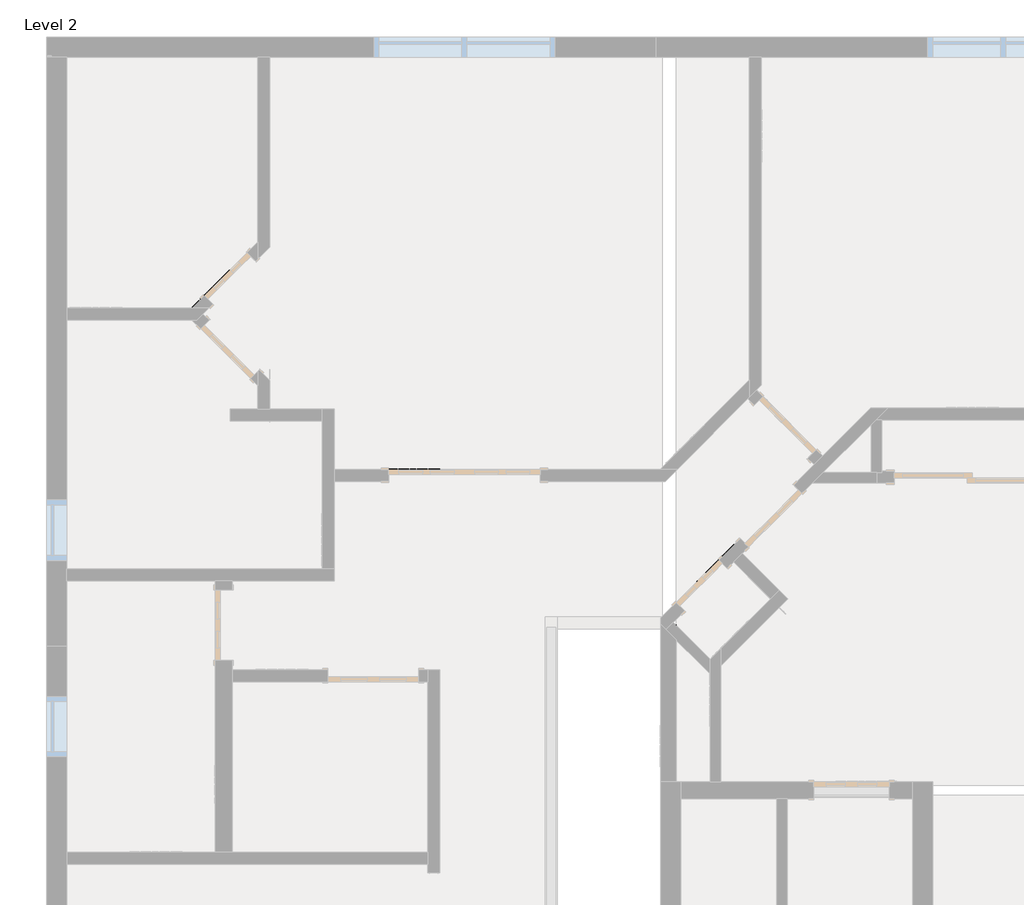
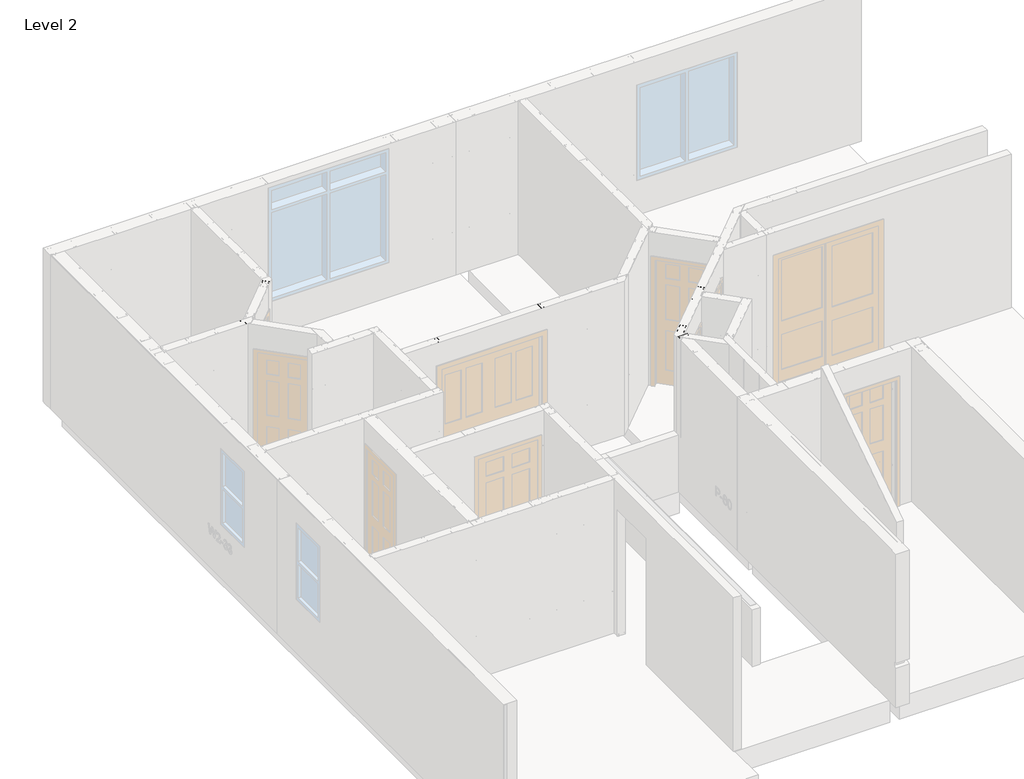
# One storey, part 30 of 46: 10 columns, 3 beams, 3 fasteners.
"""IFC4 building model written with IfcOpenShell, lengths in millimetres."""

from ifc_helpers import new_model, si_unit, point, frame, origin, place, context, project, spatial, circle_curve, ellipse_curve, trimmed, transform, mapped, element, save
from ifc_brep_helpers import plane_surface, extruded_surface, advanced_brep
from components import beam_350nf150_33_fdf4906e, beam_350nf150_33_23912f3a, beam_350nf150_33_e3974812, column_350nf150_33_a93e9d8a, panellabel_e07ebce4, panellabel_08628373, panellabel_aeb8809d

model = new_model("IFC4")

# Units and contexts
model_context = context("Model", 3, world=origin())
ifc_project = project(units=[si_unit("LENGTHUNIT", "METRE", prefix="MILLI")], contexts=[model_context])

# Site, building, storey
site = spatial("IfcSite", under=ifc_project)
building = spatial("IfcBuilding", under=site)
storey = spatial("IfcBuildingStorey", under=building, Name="Level 2", Elevation=3060.7)

# Beams
placement = place(None, origin())
beam_350nf150_33_shape = beam_350nf150_33_fdf4906e(model_context)
element("IfcBeam", 1, ObjectType="BIMSF-SSMA-S : 350NF150-33", at=placement, inside=storey, context=model_context, shape_type="MappedRepresentation", body=[
    mapped(beam_350nf150_33_shape, transform((-8973.177191, 8254.4366717, 3076.575), x_axis=(0.7071067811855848, 0.7071067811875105, 0.0), y_axis=(0.0, 0.0, -1.0000000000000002), z_axis=(-0.7071067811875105, 0.7071067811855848, 0.0))),
])
beam_350nf150_33_2_shape = beam_350nf150_33_23912f3a(model_context)
element("IfcBeam", 2, ObjectType="BIMSF-SSMA-S : 350NF150-33", at=placement, inside=storey, context=model_context, shape_type="MappedRepresentation", body=[
    mapped(beam_350nf150_33_2_shape, transform((-8382.9407258, 8844.6731369, 3076.575), x_axis=(0.7071067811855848, 0.7071067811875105, 0.0), y_axis=(0.0, 0.0, -1.0000000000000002), z_axis=(-0.7071067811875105, 0.7071067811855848, 0.0))),
])
beam_350nf150_33_3_shape = beam_350nf150_33_e3974812(model_context)
element("IfcBeam", 3, ObjectType="BIMSF-SSMA-S : 350NF150-33", at=placement, inside=storey, context=model_context, shape_type="MappedRepresentation", body=[
    mapped(beam_350nf150_33_3_shape, transform((-8232.4643379, 8079.1634004, 3076.575), x_axis=(0.7071067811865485, 0.7071067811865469, 0.0), y_axis=(0.0, 0.0, -1.0000000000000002), z_axis=(-0.7071067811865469, 0.7071067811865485, 0.0))),
])

# Columns
element("IfcColumn", 4, ObjectType="BIMSF-SSMA-S-Column : 350NF150-33", at=placement, inside=storey, context=model_context, shape_type="AdvancedBrep", body=[
    advanced_brep(
    [(-10266.4913349, 8097.4454064, 3061.5929687), (-10177.5913349, 8097.4454064, 3061.5929687), (-10177.5913349, 8059.3454064, 3061.5929687), (-10183.2488507, 8059.3454064, 3061.5929687), (-10183.2488507, 8060.2277222, 3061.5929687), (-10178.4736507, 8060.2277222, 3061.5929687), (-10178.4736507, 8096.5630906, 3061.5929687), (-10265.6090191, 8096.5630906, 3061.5929687), (-10265.6090191, 8060.2277222, 3061.5929687), (-10260.8338191, 8060.2277222, 3061.5929687), (-10260.8338191, 8059.3454064, 3061.5929687), (-10266.4913349, 8059.3454064, 3061.5929687), (-10266.4913349, 8097.4454064, 3974.2070312), (-10177.5913349, 8097.4454064, 3974.2070312), (-10209.3413349, 8097.4454064, 3671.1929688), (-10234.7413349, 8097.4454064, 3671.1929688), (-10177.5913349, 8059.3454064, 3974.2070312), (-10183.2488507, 8059.3454064, 3974.2070312), (-10183.2488507, 8060.2277222, 3974.2070312), (-10178.4736507, 8060.2277222, 3974.2070312), (-10178.4736507, 8096.5630906, 3974.2070312), (-10265.6090191, 8096.5630906, 3974.2070312), (-10234.7413349, 8096.5630906, 3671.1929688), (-10209.3413349, 8096.5630906, 3671.1929688), (-10265.6090191, 8060.2277222, 3974.2070312), (-10260.8338191, 8060.2277222, 3974.2070312), (-10260.8338191, 8059.3454064, 3974.2070312), (-10266.4913349, 8059.3454064, 3974.2070312)],
    [
        (0, 1),
        (1, 2),
        (2, 3),
        (3, 4),
        (4, 5),
        (5, 6),
        (6, 7),
        (7, 8),
        (8, 9),
        (9, 10),
        (10, 11),
        (11, 0),
        (0, 12),
        (12, 13),
        (13, 1),
        (14, 15, circle_curve(frame((-10222.0413349, 8097.4454064, 3671.1929688), z_axis=(0.0, -1.0, 0.0), x_axis=(1.0, 0.0, 0.0)), 12.7)),
        (15, 14, circle_curve(frame((-10222.0413349, 8097.4454064, 3671.1929688), z_axis=(0.0, -1.0, 0.0), x_axis=(1.0, 0.0, 0.0)), 12.7)),
        (13, 16),
        (16, 2),
        (16, 17),
        (17, 3),
        (17, 18),
        (18, 4),
        (18, 19),
        (19, 5),
        (19, 20),
        (20, 6),
        (20, 21),
        (21, 7),
        (22, 23, circle_curve(frame((-10222.0413349, 8096.5630906, 3671.1929688), z_axis=(0.0, 1.0, 0.0), x_axis=(1.0, 0.0, 0.0)), 12.7)),
        (23, 22, circle_curve(frame((-10222.0413349, 8096.5630906, 3671.1929688), z_axis=(0.0, 1.0, 0.0), x_axis=(1.0, 0.0, 0.0)), 12.7)),
        (21, 24),
        (24, 8),
        (24, 25),
        (25, 9),
        (25, 26),
        (26, 10),
        (26, 27),
        (27, 11),
        (27, 12),
        (22, 15),
        (14, 23),
    ],
    [
        plane_surface(frame((-10266.4913349, 8097.4454064, 3061.5929687), z_axis=(0.0, 0.0, -1.0), x_axis=(0.0, 1.0, 0.0))),
        plane_surface(frame((-10177.5913349, 8097.4454064, 3974.2070312), z_axis=(0.0, 1.0, 0.0), x_axis=(0.0, 0.0, -1.0))),
        plane_surface(frame((-10177.5913349, 8059.3454064, 3974.2070312), z_axis=(1.0, 0.0, 0.0), x_axis=(0.0, 0.0, -1.0))),
        plane_surface(frame((-10183.2488507, 8059.3454064, 3974.2070312), z_axis=(0.0, -1.0, 0.0), x_axis=(0.0, 0.0, -1.0))),
        plane_surface(frame((-10183.2488507, 8060.2277222, 3974.2070312), z_axis=(-1.0, 0.0, 0.0), x_axis=(0.0, 0.0, -1.0))),
        plane_surface(frame((-10178.4736507, 8060.2277222, 3974.2070312), z_axis=(0.0, 1.0, 0.0), x_axis=(0.0, 0.0, -1.0))),
        plane_surface(frame((-10178.4736507, 8096.5630906, 3974.2070312), z_axis=(-1.0, 0.0, 0.0), x_axis=(0.0, 0.0, -1.0))),
        plane_surface(frame((-10265.6090191, 8096.5630906, 3974.2070312), z_axis=(0.0, -1.0, 0.0), x_axis=(0.0, 0.0, -1.0))),
        plane_surface(frame((-10265.6090191, 8060.2277222, 3974.2070312), z_axis=(1.0, 0.0, 0.0), x_axis=(0.0, 0.0, -1.0))),
        plane_surface(frame((-10260.8338191, 8060.2277222, 3974.2070312), z_axis=(0.0, 1.0, 0.0), x_axis=(0.0, 0.0, -1.0))),
        plane_surface(frame((-10260.8338191, 8059.3454064, 3974.2070312), z_axis=(1.0, 0.0, 0.0), x_axis=(0.0, 0.0, -1.0))),
        plane_surface(frame((-10266.4913349, 8059.3454064, 3974.2070312), z_axis=(0.0, -1.0, 0.0), x_axis=(0.0, 0.0, -1.0))),
        plane_surface(frame((-10266.4913349, 8097.4454064, 3974.2070312), z_axis=(-1.0, 0.0, 0.0), x_axis=(0.0, 0.0, -1.0))),
        plane_surface(frame((-10266.4913349, 8097.4454064, 3974.2070312), z_axis=(0.0, 0.0, 1.0), x_axis=(0.0, -1.0, 0.0))),
        extruded_surface(trimmed(ellipse_curve(frame((-10222.0413349, 7165.7813439, 3671.1929688), z_axis=(0.0, 1.0, 0.0), x_axis=(1.0, 0.0, 0.0)), 12.7, 12.7), [point((-10234.7413349, 7165.7813439, 3671.1929688))], [point((-10209.3413349, 7165.7813439, 3671.1929688))], True, "CARTESIAN"), (0.0, -1825.2281250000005, 0.0), 1825.2281250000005),
        extruded_surface(trimmed(ellipse_curve(frame((-10222.0413349, 7165.7813439, 3671.1929688), z_axis=(0.0, 1.0, 0.0), x_axis=(1.0, 0.0, 0.0)), 12.7, 12.7), [point((-10209.3413349, 7165.7813439, 3671.1929688))], [point((-10234.7413349, 7165.7813439, 3671.1929688))], True, "CARTESIAN"), (0.0, -1825.2281250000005, 0.0), 1825.2281250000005),
    ],
    [
        (0, [[1, 2, 3, 4, 5, 6, 7, 8, 9, 10, 11, 12]]),
        (1, [[-1, 13, 14, 15], [16, 17]]),
        (2, [[-2, -15, 18, 19]]),
        (3, [[-3, -19, 20, 21]]),
        (4, [[-4, -21, 22, 23]]),
        (5, [[-5, -23, 24, 25]]),
        (6, [[-6, -25, 26, 27]]),
        (7, [[-7, -27, 28, 29], [30, 31]]),
        (8, [[-8, -29, 32, 33]]),
        (9, [[-9, -33, 34, 35]]),
        (10, [[-10, -35, 36, 37]]),
        (11, [[-11, -37, 38, 39]]),
        (12, [[-12, -39, 40, -13]]),
        (13, [[-14, -40, -38, -36, -34, -32, -28, -26, -24, -22, -20, -18]]),
        (14, [[41, -16, 42, -30]]),
        (15, [[-41, -31, -42, -17]]),
    ],
),
])
element("IfcColumn", 5, ObjectType="BIMSF-SSMA-S-Column : 350NF150-33", at=placement, inside=storey, context=model_context, shape_type="AdvancedBrep", body=[
    advanced_brep(
    [(-8994.2320971, 8170.5199728, 3061.5929687), (-9057.09389, 8233.3817656, 3061.5929687), (-9030.1531216, 8260.322534, 3061.5929687), (-9026.1526538, 8256.3220662, 3061.5929687), (-9026.7765453, 8255.6981747, 3061.5929687), (-9030.1531216, 8259.074751, 3061.5929687), (-9055.846107, 8233.3817656, 3061.5929687), (-8994.2320971, 8171.7677557, 3061.5929687), (-8968.5391117, 8197.4607411, 3061.5929687), (-8971.915688, 8200.8373174, 3061.5929687), (-8971.2917965, 8201.4612089, 3061.5929687), (-8967.2913287, 8197.4607411, 3061.5929687), (-8994.2320971, 8170.5199728, 5523.6070313), (-9057.09389, 8233.3817656, 5523.6070313), (-9034.6432496, 8210.9311253, 3671.1929688), (-9016.6827374, 8192.9706131, 3671.1929688), (-9034.6432496, 8210.9311253, 4890.3929687), (-9016.6827374, 8192.9706131, 4890.3929687), (-9030.1531216, 8260.322534, 5523.6070313), (-9026.1526538, 8256.3220662, 5523.6070313), (-9026.7765453, 8255.6981747, 5523.6070313), (-9030.1531216, 8259.074751, 5523.6070313), (-9055.846107, 8233.3817656, 5523.6070313), (-8994.2320971, 8171.7677557, 5523.6070313), (-9016.0588459, 8193.5945045, 3671.1929688), (-9034.0193582, 8211.5550168, 3671.1929688), (-9016.0588459, 8193.5945045, 4890.3929687), (-9034.0193582, 8211.5550168, 4890.3929688), (-8968.5391117, 8197.4607411, 5523.6070313), (-8971.915688, 8200.8373174, 5523.6070313), (-8971.2917965, 8201.4612089, 5523.6070313), (-8967.2913287, 8197.4607411, 5523.6070313)],
    [
        (0, 1),
        (1, 2),
        (2, 3),
        (3, 4),
        (4, 5),
        (5, 6),
        (6, 7),
        (7, 8),
        (8, 9),
        (9, 10),
        (10, 11),
        (11, 0),
        (0, 12),
        (12, 13),
        (13, 1),
        (14, 15, circle_curve(frame((-9025.6629935, 8201.9508692, 3671.1929688), z_axis=(0.7071067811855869, 0.7071067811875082, 0.0), x_axis=(-0.7071067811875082, 0.7071067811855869, 0.0)), 12.7)),
        (15, 14, circle_curve(frame((-9025.6629935, 8201.9508692, 3671.1929688), z_axis=(0.7071067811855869, 0.7071067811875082, 0.0), x_axis=(-0.7071067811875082, 0.7071067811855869, 0.0)), 12.7)),
        (16, 17, circle_curve(frame((-9025.6629935, 8201.9508692, 4890.3929687), z_axis=(0.7071067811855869, 0.7071067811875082, 0.0), x_axis=(-0.7071067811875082, 0.7071067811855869, 0.0)), 12.7)),
        (17, 16, circle_curve(frame((-9025.6629935, 8201.9508692, 4890.3929687), z_axis=(0.7071067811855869, 0.7071067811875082, 0.0), x_axis=(-0.7071067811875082, 0.7071067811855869, 0.0)), 12.7)),
        (13, 18),
        (18, 2),
        (18, 19),
        (19, 3),
        (19, 20),
        (20, 4),
        (20, 21),
        (21, 5),
        (21, 22),
        (22, 6),
        (22, 23),
        (23, 7),
        (24, 25, circle_curve(frame((-9025.0391021, 8202.5747607, 3671.1929688), z_axis=(-0.7071067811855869, -0.7071067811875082, 0.0), x_axis=(-0.7071067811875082, 0.7071067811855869, 0.0)), 12.7)),
        (25, 24, circle_curve(frame((-9025.0391021, 8202.5747607, 3671.1929688), z_axis=(-0.7071067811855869, -0.7071067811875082, 0.0), x_axis=(-0.7071067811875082, 0.7071067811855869, 0.0)), 12.7)),
        (26, 27, circle_curve(frame((-9025.0391021, 8202.5747607, 4890.3929687), z_axis=(-0.7071067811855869, -0.7071067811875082, 0.0), x_axis=(-0.7071067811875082, 0.7071067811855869, 0.0)), 12.7)),
        (27, 26, circle_curve(frame((-9025.0391021, 8202.5747607, 4890.3929687), z_axis=(-0.7071067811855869, -0.7071067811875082, 0.0), x_axis=(-0.7071067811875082, 0.7071067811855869, 0.0)), 12.7)),
        (23, 28),
        (28, 8),
        (28, 29),
        (29, 9),
        (29, 30),
        (30, 10),
        (30, 31),
        (31, 11),
        (31, 12),
        (24, 15),
        (14, 25),
        (26, 17),
        (16, 27),
    ],
    [
        plane_surface(frame((-8994.2320971, 8170.5199728, 3061.5929687), z_axis=(0.0, 0.0, -1.0000000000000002), x_axis=(-0.7071067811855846, -0.7071067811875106, 0.0))),
        plane_surface(frame((-9057.09389, 8233.3817656, 5523.6070313), z_axis=(-0.7071067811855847, -0.7071067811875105, 0.0), x_axis=(0.0, 0.0, -1.0))),
        plane_surface(frame((-9030.1531216, 8260.322534, 5523.6070313), z_axis=(-0.7071067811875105, 0.7071067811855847, 0.0), x_axis=(0.0, 0.0, -1.0))),
        plane_surface(frame((-9026.1526538, 8256.3220662, 5523.6070313), z_axis=(0.7071067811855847, 0.7071067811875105, 0.0), x_axis=(0.0, 0.0, -1.0))),
        plane_surface(frame((-9026.7765453, 8255.6981747, 5523.6070313), z_axis=(0.7071067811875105, -0.7071067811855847, 0.0), x_axis=(0.0, 0.0, -1.0))),
        plane_surface(frame((-9030.1531216, 8259.074751, 5523.6070313), z_axis=(-0.7071067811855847, -0.7071067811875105, 0.0), x_axis=(0.0, 0.0, -1.0))),
        plane_surface(frame((-9055.846107, 8233.3817656, 5523.6070313), z_axis=(0.7071067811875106, -0.7071067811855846, 0.0), x_axis=(0.0, 0.0, -1.0))),
        plane_surface(frame((-8994.2320971, 8171.7677557, 5523.6070313), z_axis=(0.7071067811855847, 0.7071067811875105, 0.0), x_axis=(0.0, 0.0, -1.0))),
        plane_surface(frame((-8968.5391117, 8197.4607411, 5523.6070313), z_axis=(-0.7071067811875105, 0.7071067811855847, 0.0), x_axis=(0.0, 0.0, -1.0))),
        plane_surface(frame((-8971.915688, 8200.8373174, 5523.6070313), z_axis=(-0.7071067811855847, -0.7071067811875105, 0.0), x_axis=(0.0, 0.0, -1.0))),
        plane_surface(frame((-8971.2917965, 8201.4612089, 5523.6070313), z_axis=(-0.7071067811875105, 0.7071067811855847, 0.0), x_axis=(0.0, 0.0, -1.0))),
        plane_surface(frame((-8967.2913287, 8197.4607411, 5523.6070313), z_axis=(0.7071067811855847, 0.7071067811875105, 0.0), x_axis=(0.0, 0.0, -1.0))),
        plane_surface(frame((-8994.2320971, 8170.5199728, 5523.6070313), z_axis=(0.7071067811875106, -0.7071067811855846, 0.0), x_axis=(0.0, 0.0, -1.0))),
        plane_surface(frame((-8994.2320971, 8170.5199728, 5523.6070313), z_axis=(0.0, 0.0, 1.0000000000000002), x_axis=(0.7071067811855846, 0.7071067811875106, 0.0))),
        extruded_surface(trimmed(ellipse_curve(frame((-7271.2857704, 9956.3280923, 3671.1929688), z_axis=(-0.7071067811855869, -0.7071067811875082, 0.0), x_axis=(-0.7071067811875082, 0.7071067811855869, 0.0)), 12.7, 12.7), [point((-7262.3055143, 9947.3478362, 3671.1929688))], [point((-7280.2660265, 9965.3083485, 3671.1929688))], True, "CARTESIAN"), (3481.813678, 3481.8136780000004, 0.0), 4924.028125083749),
        extruded_surface(trimmed(ellipse_curve(frame((-7271.2857704, 9956.3280923, 3671.1929688), z_axis=(-0.7071067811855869, -0.7071067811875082, 0.0), x_axis=(-0.7071067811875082, 0.7071067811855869, 0.0)), 12.7, 12.7), [point((-7280.2660265, 9965.3083485, 3671.1929688))], [point((-7262.3055143, 9947.3478362, 3671.1929688))], True, "CARTESIAN"), (3481.813678, 3481.8136780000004, 0.0), 4924.028125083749),
        extruded_surface(trimmed(ellipse_curve(frame((-7271.2857704, 9956.3280923, 4890.3929687), z_axis=(-0.7071067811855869, -0.7071067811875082, 0.0), x_axis=(-0.7071067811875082, 0.7071067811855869, 0.0)), 12.7, 12.7), [point((-7262.3055143, 9947.3478362, 4890.3929687))], [point((-7280.2660265, 9965.3083485, 4890.3929687))], True, "CARTESIAN"), (3481.813678, 3481.8136780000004, 0.0), 4924.028125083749),
        extruded_surface(trimmed(ellipse_curve(frame((-7271.2857704, 9956.3280923, 4890.3929687), z_axis=(-0.7071067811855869, -0.7071067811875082, 0.0), x_axis=(-0.7071067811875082, 0.7071067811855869, 0.0)), 12.7, 12.7), [point((-7280.2660265, 9965.3083485, 4890.3929687))], [point((-7262.3055143, 9947.3478362, 4890.3929687))], True, "CARTESIAN"), (3481.813678, 3481.8136780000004, 0.0), 4924.028125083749),
    ],
    [
        (0, [[1, 2, 3, 4, 5, 6, 7, 8, 9, 10, 11, 12]]),
        (1, [[-1, 13, 14, 15], [16, 17], [18, 19]]),
        (2, [[-2, -15, 20, 21]]),
        (3, [[-3, -21, 22, 23]]),
        (4, [[-4, -23, 24, 25]]),
        (5, [[-5, -25, 26, 27]]),
        (6, [[-6, -27, 28, 29]]),
        (7, [[-7, -29, 30, 31], [32, 33], [34, 35]]),
        (8, [[-8, -31, 36, 37]]),
        (9, [[-9, -37, 38, 39]]),
        (10, [[-10, -39, 40, 41]]),
        (11, [[-11, -41, 42, 43]]),
        (12, [[-12, -43, 44, -13]]),
        (13, [[-14, -44, -42, -40, -38, -36, -30, -28, -26, -24, -22, -20]]),
        (14, [[45, -16, 46, -32]]),
        (15, [[-45, -33, -46, -17]]),
        (16, [[47, -18, 48, -34]]),
        (17, [[-47, -35, -48, -19]]),
    ],
),
])
element("IfcColumn", 6, ObjectType="BIMSF-SSMA-S-Column : 350NF150-33", at=placement, inside=storey, context=model_context, shape_type="AdvancedBrep", body=[
    advanced_brep(
    [(-13186.8531277, 11959.6158538, 3061.5929687), (-13123.9913349, 11896.7540609, 3061.5929687), (-13150.9321032, 11869.8132925, 3061.5929687), (-13154.932571, 11873.8137603, 3061.5929687), (-13154.3086795, 11874.4376518, 3061.5929687), (-13150.9321032, 11871.0610755, 3061.5929687), (-13125.2391178, 11896.7540609, 3061.5929687), (-13186.8531277, 11958.3680708, 3061.5929687), (-13212.5461131, 11932.6750854, 3061.5929687), (-13209.1695368, 11929.2985091, 3061.5929687), (-13209.7934283, 11928.6746176, 3061.5929687), (-13213.7938961, 11932.6750854, 3061.5929687), (-13186.8531277, 11959.6158538, 5523.6070313), (-13123.9913349, 11896.7540609, 5523.6070313), (-13146.4419752, 11919.2047012, 3671.1929687), (-13164.4024874, 11937.1652135, 3671.1929687), (-13146.4419752, 11919.2047012, 4890.3929687), (-13164.4024874, 11937.1652135, 4890.3929687), (-13150.9321032, 11869.8132925, 5523.6070313), (-13154.932571, 11873.8137603, 5523.6070313), (-13154.3086795, 11874.4376518, 5523.6070313), (-13150.9321032, 11871.0610755, 5523.6070313), (-13125.2391178, 11896.7540609, 5523.6070313), (-13186.8531277, 11958.3680708, 5523.6070313), (-13165.0263789, 11936.541322, 3671.1929687), (-13147.0658667, 11918.5808097, 3671.1929687), (-13165.0263789, 11936.541322, 4890.3929688), (-13147.0658667, 11918.5808097, 4890.3929687), (-13212.5461131, 11932.6750854, 5523.6070313), (-13209.1695368, 11929.2985091, 5523.6070313), (-13209.7934283, 11928.6746176, 5523.6070313), (-13213.7938961, 11932.6750854, 5523.6070313)],
    [
        (0, 1),
        (1, 2),
        (2, 3),
        (3, 4),
        (4, 5),
        (5, 6),
        (6, 7),
        (7, 8),
        (8, 9),
        (9, 10),
        (10, 11),
        (11, 0),
        (0, 12),
        (12, 13),
        (13, 1),
        (14, 15, circle_curve(frame((-13155.4222313, 11928.1849573, 3671.1929687), z_axis=(-0.7071067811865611, -0.7071067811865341, 0.0), x_axis=(0.7071067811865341, -0.7071067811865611, 0.0)), 12.7)),
        (15, 14, circle_curve(frame((-13155.4222313, 11928.1849573, 3671.1929687), z_axis=(-0.7071067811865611, -0.7071067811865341, 0.0), x_axis=(0.7071067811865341, -0.7071067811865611, 0.0)), 12.7)),
        (16, 17, circle_curve(frame((-13155.4222313, 11928.1849573, 4890.3929687), z_axis=(-0.7071067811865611, -0.7071067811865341, 0.0), x_axis=(0.7071067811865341, -0.7071067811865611, 0.0)), 12.7)),
        (17, 16, circle_curve(frame((-13155.4222313, 11928.1849573, 4890.3929687), z_axis=(-0.7071067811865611, -0.7071067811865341, 0.0), x_axis=(0.7071067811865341, -0.7071067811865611, 0.0)), 12.7)),
        (13, 18),
        (18, 2),
        (18, 19),
        (19, 3),
        (19, 20),
        (20, 4),
        (20, 21),
        (21, 5),
        (21, 22),
        (22, 6),
        (22, 23),
        (23, 7),
        (24, 25, circle_curve(frame((-13156.0461228, 11927.5610659, 3671.1929687), z_axis=(0.7071067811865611, 0.7071067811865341, 0.0), x_axis=(0.7071067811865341, -0.7071067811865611, 0.0)), 12.7)),
        (25, 24, circle_curve(frame((-13156.0461228, 11927.5610659, 3671.1929687), z_axis=(0.7071067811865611, 0.7071067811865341, 0.0), x_axis=(0.7071067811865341, -0.7071067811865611, 0.0)), 12.7)),
        (26, 27, circle_curve(frame((-13156.0461228, 11927.5610659, 4890.3929687), z_axis=(0.7071067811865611, 0.7071067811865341, 0.0), x_axis=(0.7071067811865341, -0.7071067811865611, 0.0)), 12.7)),
        (27, 26, circle_curve(frame((-13156.0461228, 11927.5610659, 4890.3929687), z_axis=(0.7071067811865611, 0.7071067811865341, 0.0), x_axis=(0.7071067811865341, -0.7071067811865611, 0.0)), 12.7)),
        (23, 28),
        (28, 8),
        (28, 29),
        (29, 9),
        (29, 30),
        (30, 10),
        (30, 31),
        (31, 11),
        (31, 12),
        (24, 15),
        (14, 25),
        (26, 17),
        (16, 27),
    ],
    [
        plane_surface(frame((-13186.8531277, 11959.6158538, 3061.5929687), z_axis=(0.0, 0.0, -1.0000000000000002), x_axis=(0.7071067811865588, 0.7071067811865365, 0.0))),
        plane_surface(frame((-13123.9913349, 11896.7540609, 5523.6070313), z_axis=(0.7071067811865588, 0.7071067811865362, 0.0), x_axis=(0.0, 0.0, -1.0))),
        plane_surface(frame((-13150.9321032, 11869.8132925, 5523.6070313), z_axis=(0.7071067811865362, -0.7071067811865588, 0.0), x_axis=(0.0, 0.0, -1.0))),
        plane_surface(frame((-13154.932571, 11873.8137603, 5523.6070313), z_axis=(-0.7071067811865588, -0.7071067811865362, 0.0), x_axis=(0.0, 0.0, -1.0))),
        plane_surface(frame((-13154.3086795, 11874.4376518, 5523.6070313), z_axis=(-0.7071067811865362, 0.7071067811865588, 0.0), x_axis=(0.0, 0.0, -1.0))),
        plane_surface(frame((-13150.9321032, 11871.0610755, 5523.6070313), z_axis=(0.7071067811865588, 0.7071067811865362, 0.0), x_axis=(0.0, 0.0, -1.0))),
        plane_surface(frame((-13125.2391178, 11896.7540609, 5523.6070313), z_axis=(-0.7071067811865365, 0.7071067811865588, 0.0), x_axis=(0.0, 0.0, -1.0))),
        plane_surface(frame((-13186.8531277, 11958.3680708, 5523.6070313), z_axis=(-0.7071067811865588, -0.7071067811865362, 0.0), x_axis=(0.0, 0.0, -1.0))),
        plane_surface(frame((-13212.5461131, 11932.6750854, 5523.6070313), z_axis=(0.7071067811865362, -0.7071067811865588, 0.0), x_axis=(0.0, 0.0, -1.0))),
        plane_surface(frame((-13209.1695368, 11929.2985091, 5523.6070313), z_axis=(0.7071067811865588, 0.7071067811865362, 0.0), x_axis=(0.0, 0.0, -1.0))),
        plane_surface(frame((-13209.7934283, 11928.6746176, 5523.6070313), z_axis=(0.7071067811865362, -0.7071067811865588, 0.0), x_axis=(0.0, 0.0, -1.0))),
        plane_surface(frame((-13213.7938961, 11932.6750854, 5523.6070313), z_axis=(-0.7071067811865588, -0.7071067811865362, 0.0), x_axis=(0.0, 0.0, -1.0))),
        plane_surface(frame((-13186.8531277, 11959.6158538, 5523.6070313), z_axis=(-0.7071067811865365, 0.7071067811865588, 0.0), x_axis=(0.0, 0.0, -1.0))),
        plane_surface(frame((-13186.8531277, 11959.6158538, 5523.6070313), z_axis=(0.0, 0.0, 1.0000000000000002), x_axis=(-0.7071067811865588, -0.7071067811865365, 0.0))),
        extruded_surface(trimmed(ellipse_curve(frame((-14909.7994545, 10173.8077342, 3671.1929687), z_axis=(0.7071067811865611, 0.7071067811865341, 0.0), x_axis=(0.7071067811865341, -0.7071067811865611, 0.0)), 12.7, 12.7), [point((-14918.7797106, 10182.7879903, 3671.1929687))], [point((-14900.8191983, 10164.8274781, 3671.1929687))], True, "CARTESIAN"), (-3481.8136779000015, -3481.8136779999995, 0.0), 4924.028125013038),
        extruded_surface(trimmed(ellipse_curve(frame((-14909.7994545, 10173.8077342, 3671.1929687), z_axis=(0.7071067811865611, 0.7071067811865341, 0.0), x_axis=(0.7071067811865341, -0.7071067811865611, 0.0)), 12.7, 12.7), [point((-14900.8191983, 10164.8274781, 3671.1929687))], [point((-14918.7797106, 10182.7879903, 3671.1929687))], True, "CARTESIAN"), (-3481.8136779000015, -3481.8136779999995, 0.0), 4924.028125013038),
        extruded_surface(trimmed(ellipse_curve(frame((-14909.7994545, 10173.8077342, 4890.3929687), z_axis=(0.7071067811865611, 0.7071067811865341, 0.0), x_axis=(0.7071067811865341, -0.7071067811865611, 0.0)), 12.7, 12.7), [point((-14918.7797106, 10182.7879903, 4890.3929687))], [point((-14900.8191983, 10164.8274781, 4890.3929687))], True, "CARTESIAN"), (-3481.8136779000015, -3481.8136779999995, 0.0), 4924.028125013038),
        extruded_surface(trimmed(ellipse_curve(frame((-14909.7994545, 10173.8077342, 4890.3929687), z_axis=(0.7071067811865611, 0.7071067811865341, 0.0), x_axis=(0.7071067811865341, -0.7071067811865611, 0.0)), 12.7, 12.7), [point((-14900.8191983, 10164.8274781, 4890.3929687))], [point((-14918.7797106, 10182.7879903, 4890.3929687))], True, "CARTESIAN"), (-3481.8136779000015, -3481.8136779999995, 0.0), 4924.028125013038),
    ],
    [
        (0, [[1, 2, 3, 4, 5, 6, 7, 8, 9, 10, 11, 12]]),
        (1, [[-1, 13, 14, 15], [16, 17], [18, 19]]),
        (2, [[-2, -15, 20, 21]]),
        (3, [[-3, -21, 22, 23]]),
        (4, [[-4, -23, 24, 25]]),
        (5, [[-5, -25, 26, 27]]),
        (6, [[-6, -27, 28, 29]]),
        (7, [[-7, -29, 30, 31], [32, 33], [34, 35]]),
        (8, [[-8, -31, 36, 37]]),
        (9, [[-9, -37, 38, 39]]),
        (10, [[-10, -39, 40, 41]]),
        (11, [[-11, -41, 42, 43]]),
        (12, [[-12, -43, 44, -13]]),
        (13, [[-14, -44, -42, -40, -38, -36, -30, -28, -26, -24, -22, -20]]),
        (14, [[45, -16, 46, -32]]),
        (15, [[-45, -33, -46, -17]]),
        (16, [[47, -18, 48, -34]]),
        (17, [[-47, -35, -48, -19]]),
    ],
),
])
element("IfcColumn", 7, ObjectType="BIMSF-SSMA-S-Column : 350NF150-33", at=placement, inside=storey, context=model_context, shape_type="AdvancedBrep", body=[
    advanced_brep(
    [(-13866.2049677, 11306.302221, 3061.5929687), (-13866.2049677, 11217.402221, 3061.5929687), (-13904.3049677, 11217.402221, 3061.5929687), (-13904.3049677, 11223.0597367, 3061.5929687), (-13903.4226519, 11223.0597367, 3061.5929687), (-13903.4226519, 11218.2845367, 3061.5929687), (-13867.0872835, 11218.2845367, 3061.5929687), (-13867.0872835, 11305.4199052, 3061.5929687), (-13903.4226519, 11305.4199052, 3061.5929687), (-13903.4226519, 11300.6447052, 3061.5929687), (-13904.3049677, 11300.6447052, 3061.5929687), (-13904.3049677, 11306.302221, 3061.5929687), (-13866.2049677, 11306.302221, 5523.6070313), (-13866.2049677, 11217.402221, 5523.6070313), (-13866.2049677, 11249.152221, 3671.1929687), (-13866.2049677, 11274.552221, 3671.1929687), (-13866.2049677, 11249.152221, 4890.3929687), (-13866.2049677, 11274.552221, 4890.3929687), (-13904.3049677, 11217.402221, 5523.6070313), (-13904.3049677, 11223.0597367, 5523.6070313), (-13903.4226519, 11223.0597367, 5523.6070313), (-13903.4226519, 11218.2845367, 5523.6070313), (-13867.0872835, 11218.2845367, 5523.6070313), (-13867.0872835, 11305.4199052, 5523.6070313), (-13867.0872835, 11274.552221, 3671.1929687), (-13867.0872835, 11249.152221, 3671.1929687), (-13867.0872835, 11274.552221, 4890.3929688), (-13867.0872835, 11249.152221, 4890.3929688), (-13903.4226519, 11305.4199052, 5523.6070313), (-13903.4226519, 11300.6447052, 5523.6070313), (-13904.3049677, 11300.6447052, 5523.6070313), (-13904.3049677, 11306.302221, 5523.6070313)],
    [
        (0, 1),
        (1, 2),
        (2, 3),
        (3, 4),
        (4, 5),
        (5, 6),
        (6, 7),
        (7, 8),
        (8, 9),
        (9, 10),
        (10, 11),
        (11, 0),
        (0, 12),
        (12, 13),
        (13, 1),
        (14, 15, circle_curve(frame((-13866.2049677, 11261.852221, 3671.1929687), z_axis=(-1.0, 0.0, 0.0), x_axis=(0.0, -1.0, 0.0)), 12.7)),
        (15, 14, circle_curve(frame((-13866.2049677, 11261.852221, 3671.1929687), z_axis=(-1.0, 0.0, 0.0), x_axis=(0.0, -1.0, 0.0)), 12.7)),
        (16, 17, circle_curve(frame((-13866.2049677, 11261.852221, 4890.3929687), z_axis=(-1.0, 0.0, 0.0), x_axis=(0.0, -1.0, 0.0)), 12.7)),
        (17, 16, circle_curve(frame((-13866.2049677, 11261.852221, 4890.3929687), z_axis=(-1.0, 0.0, 0.0), x_axis=(0.0, -1.0, 0.0)), 12.7)),
        (13, 18),
        (18, 2),
        (18, 19),
        (19, 3),
        (19, 20),
        (20, 4),
        (20, 21),
        (21, 5),
        (21, 22),
        (22, 6),
        (22, 23),
        (23, 7),
        (24, 25, circle_curve(frame((-13867.0872835, 11261.852221, 3671.1929688), z_axis=(1.0, 0.0, 0.0), x_axis=(0.0, -1.0, 0.0)), 12.7)),
        (25, 24, circle_curve(frame((-13867.0872835, 11261.852221, 3671.1929688), z_axis=(1.0, 0.0, 0.0), x_axis=(0.0, -1.0, 0.0)), 12.7)),
        (26, 27, circle_curve(frame((-13867.0872835, 11261.852221, 4890.3929687), z_axis=(1.0, 0.0, 0.0), x_axis=(0.0, -1.0, 0.0)), 12.7)),
        (27, 26, circle_curve(frame((-13867.0872835, 11261.852221, 4890.3929687), z_axis=(1.0, 0.0, 0.0), x_axis=(0.0, -1.0, 0.0)), 12.7)),
        (23, 28),
        (28, 8),
        (28, 29),
        (29, 9),
        (29, 30),
        (30, 10),
        (30, 31),
        (31, 11),
        (31, 12),
        (24, 15),
        (14, 25),
        (26, 17),
        (16, 27),
    ],
    [
        plane_surface(frame((-13866.2049677, 11306.302221, 3061.5929687), z_axis=(0.0, 0.0, -1.0), x_axis=(1.0, 0.0, 0.0))),
        plane_surface(frame((-13866.2049677, 11217.402221, 5523.6070313), z_axis=(1.0, 0.0, 0.0), x_axis=(0.0, 0.0, -1.0))),
        plane_surface(frame((-13904.3049677, 11217.402221, 5523.6070313), z_axis=(0.0, -1.0, 0.0), x_axis=(0.0, 0.0, -1.0))),
        plane_surface(frame((-13904.3049677, 11223.0597367, 5523.6070313), z_axis=(-1.0, 0.0, 0.0), x_axis=(0.0, 0.0, -1.0))),
        plane_surface(frame((-13903.4226519, 11223.0597367, 5523.6070313), z_axis=(0.0, 1.0, 0.0), x_axis=(0.0, 0.0, -1.0))),
        plane_surface(frame((-13903.4226519, 11218.2845367, 5523.6070313), z_axis=(1.0, 0.0, 0.0), x_axis=(0.0, 0.0, -1.0))),
        plane_surface(frame((-13867.0872835, 11218.2845367, 5523.6070313), z_axis=(0.0, 1.0, 0.0), x_axis=(0.0, 0.0, -1.0))),
        plane_surface(frame((-13867.0872835, 11305.4199052, 5523.6070313), z_axis=(-1.0, 0.0, 0.0), x_axis=(0.0, 0.0, -1.0))),
        plane_surface(frame((-13903.4226519, 11305.4199052, 5523.6070313), z_axis=(0.0, -1.0, 0.0), x_axis=(0.0, 0.0, -1.0))),
        plane_surface(frame((-13903.4226519, 11300.6447052, 5523.6070313), z_axis=(1.0, 0.0, 0.0), x_axis=(0.0, 0.0, -1.0))),
        plane_surface(frame((-13904.3049677, 11300.6447052, 5523.6070313), z_axis=(0.0, -1.0, 0.0), x_axis=(0.0, 0.0, -1.0))),
        plane_surface(frame((-13904.3049677, 11306.302221, 5523.6070313), z_axis=(-1.0, 0.0, 0.0), x_axis=(0.0, 0.0, -1.0))),
        plane_surface(frame((-13866.2049677, 11306.302221, 5523.6070313), z_axis=(0.0, 1.0, 0.0), x_axis=(0.0, 0.0, -1.0))),
        plane_surface(frame((-13866.2049677, 11306.302221, 5523.6070313), z_axis=(0.0, 0.0, 1.0), x_axis=(-1.0, 0.0, 0.0))),
        extruded_surface(trimmed(ellipse_curve(frame((-16347.2690302, 11261.852221, 3671.1929688), z_axis=(1.0, 0.0, 0.0), x_axis=(0.0, -1.0, 0.0)), 12.7, 12.7), [point((-16347.2690302, 11274.552221, 3671.1929688))], [point((-16347.2690302, 11249.152221, 3671.1929688))], True, "CARTESIAN"), (-4924.028125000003, 0.0, 0.0), 4924.028125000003),
        extruded_surface(trimmed(ellipse_curve(frame((-16347.2690302, 11261.852221, 3671.1929688), z_axis=(1.0, 0.0, 0.0), x_axis=(0.0, -1.0, 0.0)), 12.7, 12.7), [point((-16347.2690302, 11249.152221, 3671.1929688))], [point((-16347.2690302, 11274.552221, 3671.1929688))], True, "CARTESIAN"), (-4924.028125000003, 0.0, 0.0), 4924.028125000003),
        extruded_surface(trimmed(ellipse_curve(frame((-16347.2690302, 11261.852221, 4890.3929687), z_axis=(1.0, 0.0, 0.0), x_axis=(0.0, -1.0, 0.0)), 12.7, 12.7), [point((-16347.2690302, 11274.552221, 4890.3929687))], [point((-16347.2690302, 11249.152221, 4890.3929687))], True, "CARTESIAN"), (-4924.028125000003, 0.0, 0.0), 4924.028125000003),
        extruded_surface(trimmed(ellipse_curve(frame((-16347.2690302, 11261.852221, 4890.3929687), z_axis=(1.0, 0.0, 0.0), x_axis=(0.0, -1.0, 0.0)), 12.7, 12.7), [point((-16347.2690302, 11249.152221, 4890.3929687))], [point((-16347.2690302, 11274.552221, 4890.3929687))], True, "CARTESIAN"), (-4924.028125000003, 0.0, 0.0), 4924.028125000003),
    ],
    [
        (0, [[1, 2, 3, 4, 5, 6, 7, 8, 9, 10, 11, 12]]),
        (1, [[-1, 13, 14, 15], [16, 17], [18, 19]]),
        (2, [[-2, -15, 20, 21]]),
        (3, [[-3, -21, 22, 23]]),
        (4, [[-4, -23, 24, 25]]),
        (5, [[-5, -25, 26, 27]]),
        (6, [[-6, -27, 28, 29]]),
        (7, [[-7, -29, 30, 31], [32, 33], [34, 35]]),
        (8, [[-8, -31, 36, 37]]),
        (9, [[-9, -37, 38, 39]]),
        (10, [[-10, -39, 40, 41]]),
        (11, [[-11, -41, 42, 43]]),
        (12, [[-12, -43, 44, -13]]),
        (13, [[-14, -44, -42, -40, -38, -36, -30, -28, -26, -24, -22, -20]]),
        (14, [[45, -16, 46, -32]]),
        (15, [[-45, -33, -46, -17]]),
        (16, [[47, -18, 48, -34]]),
        (17, [[-47, -35, -48, -19]]),
    ],
),
])
column_350nf150_33_shape = column_350nf150_33_a93e9d8a(model_context)
element("IfcColumn", 8, ObjectType="BIMSF-SSMA-S-Column : 350NF150-33", at=placement, inside=storey, context=model_context, shape_type="MappedRepresentation", body=[
    mapped(column_350nf150_33_shape, transform((-11872.3391226, 9622.340096, 0.0), x_axis=(-1.0, 0.0, 0.0), y_axis=(0.0, -1.0, 0.0), z_axis=(0.0, 0.0, 1.0))),
])
element("IfcColumn", 9, ObjectType="BIMSF-SSMA-S-Column : 350NF150-33", at=placement, inside=storey, context=model_context, shape_type="MappedRepresentation", body=[
    mapped(column_350nf150_33_shape, transform((-10324.3435471, 9643.8143459, 0.0), x_axis=(1.0, 0.0, 0.0), y_axis=(0.0, 1.0, 0.0), z_axis=(0.0, 0.0, 1.0))),
])
element("IfcColumn", 10, ObjectType="BIMSF-SSMA-S-Column : 350NF150-33", at=placement, inside=storey, context=model_context, shape_type="MappedRepresentation", body=[
    mapped(column_350nf150_33_shape, transform((-8277.1337802, 8935.2954948, 0.0), x_axis=(-0.7071067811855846, -0.7071067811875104, 0.0), y_axis=(0.7071067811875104, -0.7071067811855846, 0.0), z_axis=(0.0, 0.0, 1.0))),
])
element("IfcColumn", 11, ObjectType="BIMSF-SSMA-S-Column : 350NF150-33", at=placement, inside=storey, context=model_context, shape_type="MappedRepresentation", body=[
    mapped(column_350nf150_33_shape, transform((-8921.5828118, 8290.8464632, 0.0), x_axis=(-0.7071067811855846, -0.7071067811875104, 0.0), y_axis=(0.7071067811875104, -0.7071067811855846, 0.0), z_axis=(0.0, 0.0, 1.0))),
])
element("IfcColumn", 12, ObjectType="BIMSF-SSMA-S-Column : 350NF150-33", at=placement, inside=storey, context=model_context, shape_type="MappedRepresentation", body=[
    mapped(column_350nf150_33_shape, transform((-8488.7476715, 8754.0507789, 0.0), x_axis=(0.7071067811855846, 0.7071067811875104, 0.0), y_axis=(-0.7071067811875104, 0.7071067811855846, 0.0), z_axis=(0.0, 0.0, 1.0))),
])
element("IfcColumn", 13, ObjectType="BIMSF-SSMA-S-Column : 550NF150-33", at=placement, inside=storey, context=model_context, shape_type="AdvancedBrep", body=[
    advanced_brep(
    [(-9104.4413349, 8124.5617623, 3061.5929687), (-8964.7413349, 8124.5617623, 3061.5929687), (-8964.7413349, 8086.4617623, 3061.5929687), (-8970.3988507, 8086.4617623, 3061.5929687), (-8970.3988507, 8087.3440781, 3061.5929687), (-8965.6236507, 8087.3440781, 3061.5929687), (-8965.6236507, 8123.6794465, 3061.5929687), (-9103.5590191, 8123.6794465, 3061.5929687), (-9103.5590191, 8087.3440781, 3061.5929687), (-9098.7838191, 8087.3440781, 3061.5929687), (-9098.7838191, 8086.4617623, 3061.5929687), (-9104.4413349, 8086.4617623, 3061.5929687), (-9104.4413349, 8124.5617623, 5523.6070313), (-8964.7413349, 8124.5617623, 5523.6070313), (-9021.8913349, 8124.5617623, 3671.1929687), (-9047.2913349, 8124.5617623, 3671.1929687), (-9021.8913349, 8124.5617623, 4890.3929687), (-9047.2913349, 8124.5617623, 4890.3929687), (-8964.7413349, 8086.4617623, 5523.6070313), (-8970.3988507, 8086.4617623, 5523.6070313), (-8970.3988507, 8087.3440781, 5523.6070313), (-8965.6236507, 8087.3440781, 5523.6070313), (-8965.6236507, 8123.6794465, 5523.6070313), (-9103.5590191, 8123.6794465, 5523.6070313), (-9047.2913349, 8123.6794465, 3671.1929688), (-9021.8913349, 8123.6794465, 3671.1929688), (-9047.2913349, 8123.6794465, 4890.3929687), (-9021.8913349, 8123.6794465, 4890.3929687), (-9103.5590191, 8087.3440781, 5523.6070313), (-9098.7838191, 8087.3440781, 5523.6070313), (-9098.7838191, 8086.4617623, 5523.6070313), (-9104.4413349, 8086.4617623, 5523.6070313)],
    [
        (0, 1),
        (1, 2),
        (2, 3),
        (3, 4),
        (4, 5),
        (5, 6),
        (6, 7),
        (7, 8),
        (8, 9),
        (9, 10),
        (10, 11),
        (11, 0),
        (0, 12),
        (12, 13),
        (13, 1),
        (14, 15, circle_curve(frame((-9034.5913349, 8124.5617623, 3671.1929688), z_axis=(0.0, -1.0, 0.0), x_axis=(1.0, 0.0, 0.0)), 12.7)),
        (15, 14, circle_curve(frame((-9034.5913349, 8124.5617623, 3671.1929688), z_axis=(0.0, -1.0, 0.0), x_axis=(1.0, 0.0, 0.0)), 12.7)),
        (16, 17, circle_curve(frame((-9034.5913349, 8124.5617623, 4890.3929687), z_axis=(0.0, -1.0, 0.0), x_axis=(1.0, 0.0, 0.0)), 12.7)),
        (17, 16, circle_curve(frame((-9034.5913349, 8124.5617623, 4890.3929687), z_axis=(0.0, -1.0, 0.0), x_axis=(1.0, 0.0, 0.0)), 12.7)),
        (13, 18),
        (18, 2),
        (18, 19),
        (19, 3),
        (19, 20),
        (20, 4),
        (20, 21),
        (21, 5),
        (21, 22),
        (22, 6),
        (22, 23),
        (23, 7),
        (24, 25, circle_curve(frame((-9034.5913349, 8123.6794465, 3671.1929687), z_axis=(0.0, 1.0, 0.0), x_axis=(1.0, 0.0, 0.0)), 12.7)),
        (25, 24, circle_curve(frame((-9034.5913349, 8123.6794465, 3671.1929688), z_axis=(0.0, 1.0, 0.0), x_axis=(1.0, 0.0, 0.0)), 12.7)),
        (26, 27, circle_curve(frame((-9034.5913349, 8123.6794465, 4890.3929687), z_axis=(0.0, 1.0, 0.0), x_axis=(1.0, 0.0, 0.0)), 12.7)),
        (27, 26, circle_curve(frame((-9034.5913349, 8123.6794465, 4890.3929687), z_axis=(0.0, 1.0, 0.0), x_axis=(1.0, 0.0, 0.0)), 12.7)),
        (23, 28),
        (28, 8),
        (28, 29),
        (29, 9),
        (29, 30),
        (30, 10),
        (30, 31),
        (31, 11),
        (31, 12),
        (24, 15),
        (14, 25),
        (26, 17),
        (16, 27),
    ],
    [
        plane_surface(frame((-9104.4413349, 8124.5617623, 3061.5929687), z_axis=(0.0, 0.0, -1.0), x_axis=(0.0, 1.0, 0.0))),
        plane_surface(frame((-8964.7413349, 8124.5617623, 5523.6070313), z_axis=(0.0, 1.0, 0.0), x_axis=(0.0, 0.0, -1.0))),
        plane_surface(frame((-8964.7413349, 8086.4617623, 5523.6070313), z_axis=(1.0, 0.0, 0.0), x_axis=(0.0, 0.0, -1.0))),
        plane_surface(frame((-8970.3988507, 8086.4617623, 5523.6070313), z_axis=(0.0, -1.0, 0.0), x_axis=(0.0, 0.0, -1.0))),
        plane_surface(frame((-8970.3988507, 8087.3440781, 5523.6070313), z_axis=(-1.0, 0.0, 0.0), x_axis=(0.0, 0.0, -1.0))),
        plane_surface(frame((-8965.6236507, 8087.3440781, 5523.6070313), z_axis=(0.0, 1.0, 0.0), x_axis=(0.0, 0.0, -1.0))),
        plane_surface(frame((-8965.6236507, 8123.6794465, 5523.6070313), z_axis=(-1.0, 0.0, 0.0), x_axis=(0.0, 0.0, -1.0))),
        plane_surface(frame((-9103.5590191, 8123.6794465, 5523.6070313), z_axis=(0.0, -1.0, 0.0), x_axis=(0.0, 0.0, -1.0))),
        plane_surface(frame((-9103.5590191, 8087.3440781, 5523.6070313), z_axis=(1.0, 0.0, 0.0), x_axis=(0.0, 0.0, -1.0))),
        plane_surface(frame((-9098.7838191, 8087.3440781, 5523.6070313), z_axis=(0.0, 1.0, 0.0), x_axis=(0.0, 0.0, -1.0))),
        plane_surface(frame((-9098.7838191, 8086.4617623, 5523.6070313), z_axis=(1.0, 0.0, 0.0), x_axis=(0.0, 0.0, -1.0))),
        plane_surface(frame((-9104.4413349, 8086.4617623, 5523.6070313), z_axis=(0.0, -1.0, 0.0), x_axis=(0.0, 0.0, -1.0))),
        plane_surface(frame((-9104.4413349, 8124.5617623, 5523.6070313), z_axis=(-1.0, 0.0, 0.0), x_axis=(0.0, 0.0, -1.0))),
        plane_surface(frame((-9104.4413349, 8124.5617623, 5523.6070313), z_axis=(0.0, 0.0, 1.0), x_axis=(0.0, -1.0, 0.0))),
        extruded_surface(trimmed(ellipse_curve(frame((-9034.5913349, 5643.4976998, 3671.1929688), z_axis=(0.0, 1.0, 0.0), x_axis=(1.0, 0.0, 0.0)), 12.7, 12.7), [point((-9047.2913349, 5643.4976998, 3671.1929688))], [point((-9021.8913349, 5643.4976998, 3671.1929688))], True, "CARTESIAN"), (0.0, -4924.028125, 0.0), 4924.028125),
        extruded_surface(trimmed(ellipse_curve(frame((-9034.5913349, 5643.4976998, 3671.1929688), z_axis=(0.0, 1.0, 0.0), x_axis=(1.0, 0.0, 0.0)), 12.7, 12.7), [point((-9021.8913349, 5643.4976998, 3671.1929688))], [point((-9047.2913349, 5643.4976998, 3671.1929688))], True, "CARTESIAN"), (0.0, -4924.028125, 0.0), 4924.028125),
        extruded_surface(trimmed(ellipse_curve(frame((-9034.5913349, 5643.4976998, 4890.3929687), z_axis=(0.0, 1.0, 0.0), x_axis=(1.0, 0.0, 0.0)), 12.7, 12.7), [point((-9047.2913349, 5643.4976998, 4890.3929687))], [point((-9021.8913349, 5643.4976998, 4890.3929687))], True, "CARTESIAN"), (0.0, -4924.028125, 0.0), 4924.028125),
        extruded_surface(trimmed(ellipse_curve(frame((-9034.5913349, 5643.4976998, 4890.3929687), z_axis=(0.0, 1.0, 0.0), x_axis=(1.0, 0.0, 0.0)), 12.7, 12.7), [point((-9021.8913349, 5643.4976998, 4890.3929687))], [point((-9047.2913349, 5643.4976998, 4890.3929687))], True, "CARTESIAN"), (0.0, -4924.028125, 0.0), 4924.028125),
    ],
    [
        (0, [[1, 2, 3, 4, 5, 6, 7, 8, 9, 10, 11, 12]]),
        (1, [[-1, 13, 14, 15], [16, 17], [18, 19]]),
        (2, [[-2, -15, 20, 21]]),
        (3, [[-3, -21, 22, 23]]),
        (4, [[-4, -23, 24, 25]]),
        (5, [[-5, -25, 26, 27]]),
        (6, [[-6, -27, 28, 29]]),
        (7, [[-7, -29, 30, 31], [32, 33], [34, 35]]),
        (8, [[-8, -31, 36, 37]]),
        (9, [[-9, -37, 38, 39]]),
        (10, [[-10, -39, 40, 41]]),
        (11, [[-11, -41, 42, 43]]),
        (12, [[-12, -43, 44, -13]]),
        (13, [[-14, -44, -42, -40, -38, -36, -30, -28, -26, -24, -22, -20]]),
        (14, [[45, -16, 46, -32]]),
        (15, [[-45, -33, -46, -17]]),
        (16, [[47, -18, 48, -34]]),
        (17, [[-47, -35, -48, -19]]),
    ],
),
])

# Fasteners
panellabel_shape = panellabel_e07ebce4(model_context)
element("IfcFastener", 14, ObjectType="PanelLabel : Miranda", at=placement, inside=storey, context=model_context, shape_type="MappedRepresentation", body=[
    mapped(panellabel_shape, transform((-11607.2946367, 9633.077221, 2289.9077702), x_axis=(1.0, 0.0, 0.0), y_axis=(0.0, 1.0, 0.0), z_axis=(0.0, 0.0, 1.0))),
])
panellabel_2_shape = panellabel_08628373(model_context)
element("IfcFastener", 15, ObjectType="PanelLabel : Miranda", at=placement, inside=storey, context=model_context, shape_type="MappedRepresentation", body=[
    mapped(panellabel_2_shape, transform((-13610.1301865, 11473.4770022, 2289.5386234), x_axis=(0.7071067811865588, 0.7071067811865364, 0.0), y_axis=(-0.7071067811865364, 0.7071067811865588, 0.0), z_axis=(0.0, 0.0, 1.0))),
])
panellabel_3_shape = panellabel_aeb8809d(model_context)
element("IfcFastener", 16, ObjectType="PanelLabel : Miranda", at=placement, inside=storey, context=model_context, shape_type="MappedRepresentation", body=[
    mapped(panellabel_3_shape, transform((-8521.2282472, 8706.3856155, 2289.9077702), x_axis=(0.7071067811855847, 0.7071067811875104, 0.0), y_axis=(-0.7071067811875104, 0.7071067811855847, 0.0), z_axis=(0.0, 0.0, 1.0))),
])

save(model, "model.ifc")
